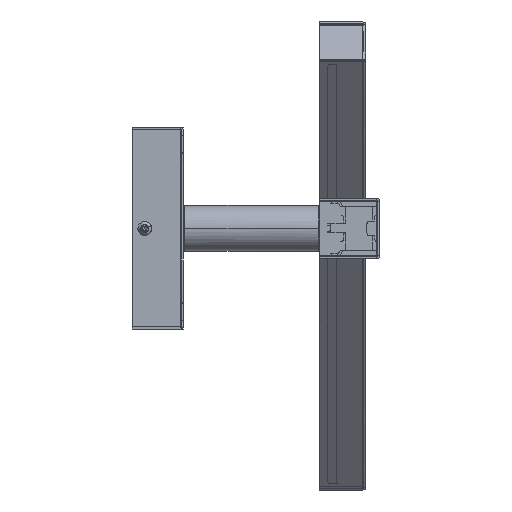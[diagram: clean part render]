
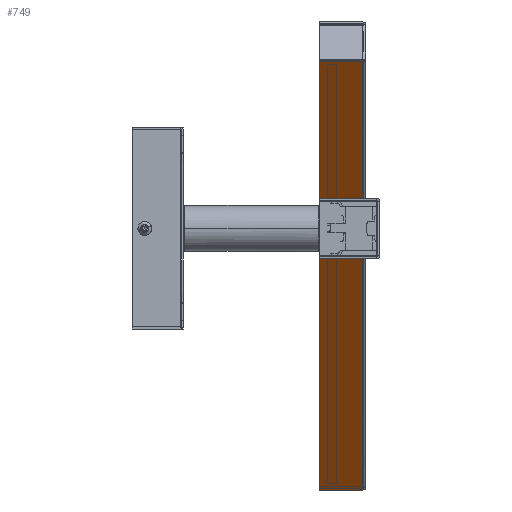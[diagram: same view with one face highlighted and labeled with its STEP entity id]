
A CAD part, front view. The second image highlights one B-rep face of the part: STEP entity #749.
In plain terms, the highlighted planar face has unit normal (0, -0.752, -0.659).
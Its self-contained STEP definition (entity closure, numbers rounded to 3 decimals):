
#749=ADVANCED_FACE('',(#1619),#13247,.T.);
#1619=FACE_OUTER_BOUND('',#2521,.T.);
#2521=EDGE_LOOP('',(#5867,#5868,#5869,#5870));
#5867=ORIENTED_EDGE('',*,*,#8731,.F.);
#5868=ORIENTED_EDGE('',*,*,#8726,.T.);
#5869=ORIENTED_EDGE('',*,*,#8730,.T.);
#5870=ORIENTED_EDGE('',*,*,#8721,.F.);
#8721=EDGE_CURVE('',#12517,#12515,#11103,.T.);
#8726=EDGE_CURVE('',#12524,#12523,#11107,.T.);
#8730=EDGE_CURVE('',#12523,#12515,#11111,.T.);
#8731=EDGE_CURVE('',#12524,#12517,#11112,.T.);
#11103=B_SPLINE_CURVE_WITH_KNOTS('',1,(#35913,#35914),.UNSPECIFIED.,.F.,
 .F.,(2,2),(0.,310.),.UNSPECIFIED.);
#11107=B_SPLINE_CURVE_WITH_KNOTS('',1,(#35924,#35925),.UNSPECIFIED.,.F.,
 .F.,(2,2),(-310.,0.),.UNSPECIFIED.);
#11111=B_SPLINE_CURVE_WITH_KNOTS('',1,(#35932,#35933),.UNSPECIFIED.,.F.,
 .F.,(2,2),(-23.7,0.),.UNSPECIFIED.);
#11112=B_SPLINE_CURVE_WITH_KNOTS('',1,(#35934,#35935),.UNSPECIFIED.,.F.,
 .F.,(2,2),(-23.7,0.),.UNSPECIFIED.);
#12515=VERTEX_POINT('',#35618);
#12517=VERTEX_POINT('',#35620);
#12523=VERTEX_POINT('',#35626);
#12524=VERTEX_POINT('',#35627);
#13247=PLANE('',#14096);
#14096=AXIS2_PLACEMENT_3D('',#35536,#14601,$);
#14601=DIRECTION('',(0.,-0.752,-0.659));
#35536=CARTESIAN_POINT('',(127.92,-209.419,113.967));
#35618=CARTESIAN_POINT('',(125.55,15.332,-142.486));
#35620=CARTESIAN_POINT('',(125.55,-188.987,90.653));
#35626=CARTESIAN_POINT('',(101.85,15.332,-142.486));
#35627=CARTESIAN_POINT('',(101.85,-188.987,90.653));
#35913=CARTESIAN_POINT('',(125.55,-188.987,90.653));
#35914=CARTESIAN_POINT('',(125.55,15.332,-142.486));
#35924=CARTESIAN_POINT('',(101.85,-188.987,90.653));
#35925=CARTESIAN_POINT('',(101.85,15.332,-142.486));
#35932=CARTESIAN_POINT('',(101.85,15.332,-142.486));
#35933=CARTESIAN_POINT('',(125.55,15.332,-142.486));
#35934=CARTESIAN_POINT('',(101.85,-188.987,90.653));
#35935=CARTESIAN_POINT('',(125.55,-188.987,90.653));
